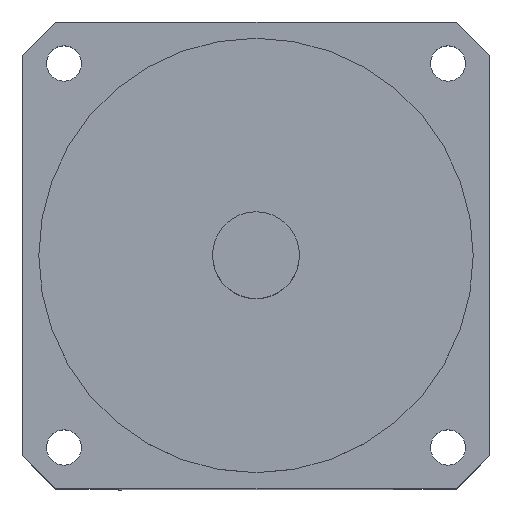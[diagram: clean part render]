
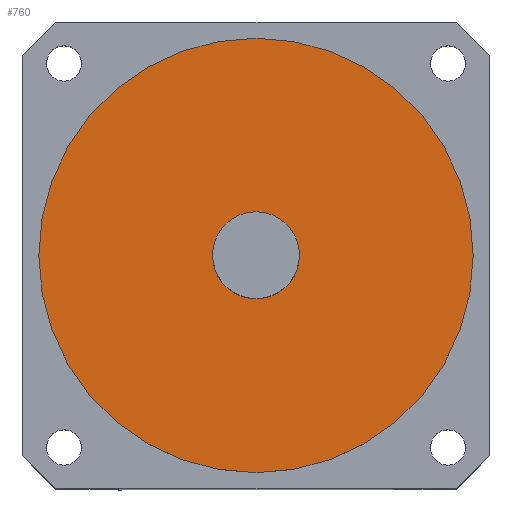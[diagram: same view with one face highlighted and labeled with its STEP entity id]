
A CAD part, top view. The second image highlights one B-rep face of the part: STEP entity #760.
In plain terms, the highlighted planar face has unit normal (0, 0, 1).
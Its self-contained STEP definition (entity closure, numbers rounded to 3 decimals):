
#59 = DIRECTION ( 'NONE',  ( 1., 0., 0. ) ) ;
#60 = DIRECTION ( 'NONE',  ( 0., 0., 1. ) ) ;
#66 = CARTESIAN_POINT ( 'NONE',  ( 0., 0., 152. ) ) ;
#118 = DIRECTION ( 'NONE',  ( 1., 0., 0. ) ) ;
#124 = DIRECTION ( 'NONE',  ( 0., 0., 1. ) ) ;
#131 = CARTESIAN_POINT ( 'NONE',  ( 0., 0., 152. ) ) ;
#180 = VERTEX_POINT ( 'NONE', #1851 ) ;
#185 = AXIS2_PLACEMENT_3D ( 'NONE', #330, #469, #1565 ) ;
#279 = CARTESIAN_POINT ( 'NONE',  ( 40., 0., 152. ) ) ;
#290 = AXIS2_PLACEMENT_3D ( 'NONE', #1220, #452, #575 ) ;
#298 = AXIS2_PLACEMENT_3D ( 'NONE', #66, #60, #59 ) ;
#330 = CARTESIAN_POINT ( 'NONE',  ( 0., 0., 152. ) ) ;
#404 = AXIS2_PLACEMENT_3D ( 'NONE', #131, #124, #118 ) ;
#452 = DIRECTION ( 'NONE',  ( 0., 0., 1. ) ) ;
#469 = DIRECTION ( 'NONE',  ( 0., 0., 1. ) ) ;
#488 = FACE_BOUND ( 'NONE', #694, .T. ) ;
#496 = VERTEX_POINT ( 'NONE', #1069 ) ;
#532 = DIRECTION ( 'NONE',  ( 1., 0., 0. ) ) ;
#540 = ORIENTED_EDGE ( 'NONE', *, *, #1158, .F. ) ;
#568 = DIRECTION ( 'NONE',  ( 0., 0., 1. ) ) ;
#574 = ORIENTED_EDGE ( 'NONE', *, *, #1777, .T. ) ;
#575 = DIRECTION ( 'NONE',  ( 1., 0., 0. ) ) ;
#671 = VERTEX_POINT ( 'NONE', #893 ) ;
#694 = EDGE_LOOP ( 'NONE', ( #869, #540 ) ) ;
#743 = CARTESIAN_POINT ( 'NONE',  ( 0., 0., 152. ) ) ;
#760 = ADVANCED_FACE ( 'NONE', ( #1104, #488 ), #1525, .T. ) ;
#869 = ORIENTED_EDGE ( 'NONE', *, *, #1523, .F. ) ;
#876 = AXIS2_PLACEMENT_3D ( 'NONE', #743, #568, #532 ) ;
#893 = CARTESIAN_POINT ( 'NONE',  ( -40., 0., 152. ) ) ;
#1008 = ORIENTED_EDGE ( 'NONE', *, *, #1495, .T. ) ;
#1069 = CARTESIAN_POINT ( 'NONE',  ( 8., 0., 152. ) ) ;
#1104 = FACE_OUTER_BOUND ( 'NONE', #1357, .T. ) ;
#1158 = EDGE_CURVE ( 'NONE', #496, #180, #1947, .T. ) ;
#1220 = CARTESIAN_POINT ( 'NONE',  ( 0., 0., 152. ) ) ;
#1225 = CIRCLE ( 'NONE', #185, 40. ) ;
#1357 = EDGE_LOOP ( 'NONE', ( #1008, #574 ) ) ;
#1480 = CIRCLE ( 'NONE', #290, 8. ) ;
#1491 = CIRCLE ( 'NONE', #298, 40. ) ;
#1495 = EDGE_CURVE ( 'NONE', #671, #1902, #1491, .T. ) ;
#1523 = EDGE_CURVE ( 'NONE', #180, #496, #1480, .T. ) ;
#1525 = PLANE ( 'NONE',  #876 ) ;
#1565 = DIRECTION ( 'NONE',  ( 1., 0., 0. ) ) ;
#1777 = EDGE_CURVE ( 'NONE', #1902, #671, #1225, .T. ) ;
#1851 = CARTESIAN_POINT ( 'NONE',  ( -8., 0., 152. ) ) ;
#1902 = VERTEX_POINT ( 'NONE', #279 ) ;
#1947 = CIRCLE ( 'NONE', #404, 8. ) ;
